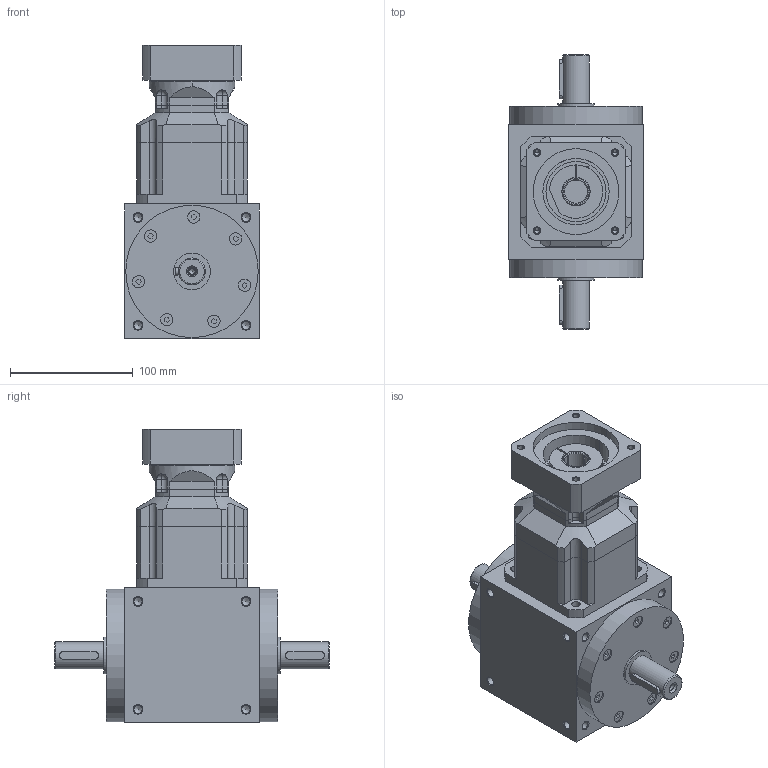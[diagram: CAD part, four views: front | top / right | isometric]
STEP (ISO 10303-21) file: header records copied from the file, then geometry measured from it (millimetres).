
FILE_DESCRIPTION(/* description */ (''),/* implementation_level */ '2;1');
FILE_NAME(/* name */ 'AT-110-FL(12-100)(19-70-90-M6).stp',/* time_stamp */ '2024-12-06T21:28:40+08:00',/* author */ (''),/* organization */ (''),/* preprocessor_version */ 'ST-DEVELOPER v16',/* originating_system */ 'SIEMENS PLM Software NX 10.0',/* authorisation */ '');
FILE_SCHEMA (('AP203_CONFIGURATION_CONTROLLED_3D_DESIGN_OF_MECHANICAL_PARTS_AND_ASSEMBLIES_MIM_LF { 1 0 10303 403 2 1 2}'));
Length unit declared in the file: millimetre
Products named in the file (1): AT-110-FL_12-100__19-70-90-M5__stp
Bounding box: 110 x 224 x 239.5 mm (x, y, z)
Volume: 2352635.6 mm3; surface area: 209615.6 mm2
Topology: 8 solids, 9 shells, 522 faces, 1335 edges, 849 vertices
Faces by surface type: plane 255, cylinder 183, cone 74, torus 6, sphere 4
Full cylindrical faces by diameter (mm): 5 x2, 6.7 x2, 6.8 x40, 10.003 x14, 22 x2, 22.2 x1, 30 x2, 59.127 x1, 108 x2
Entity records: 15330 total; most frequent: CARTESIAN_POINT 3170, DIRECTION 2542, ORIENTED_EDGE 2312, EDGE_CURVE 1156, AXIS2_PLACEMENT_3D 958, VERTEX_POINT 816, EDGE_LOOP 704, LINE 626
